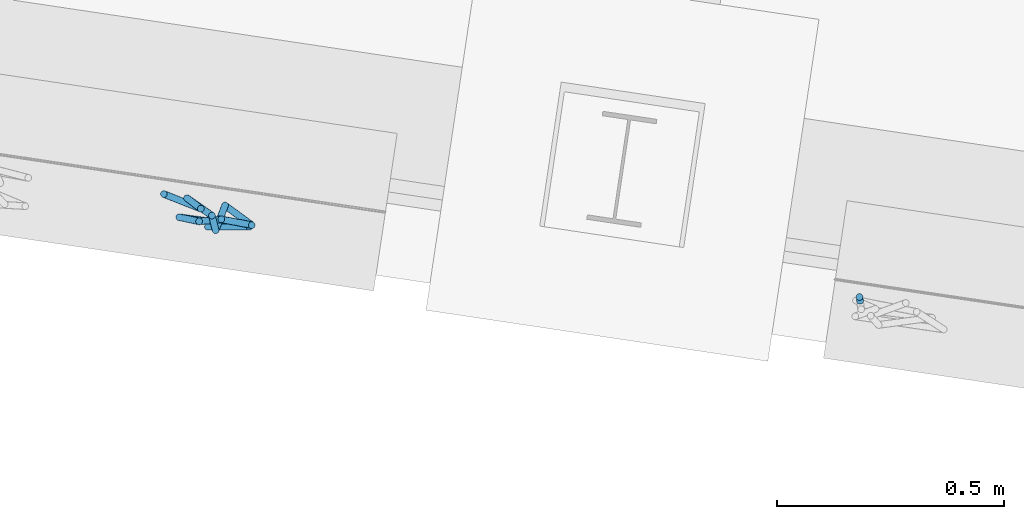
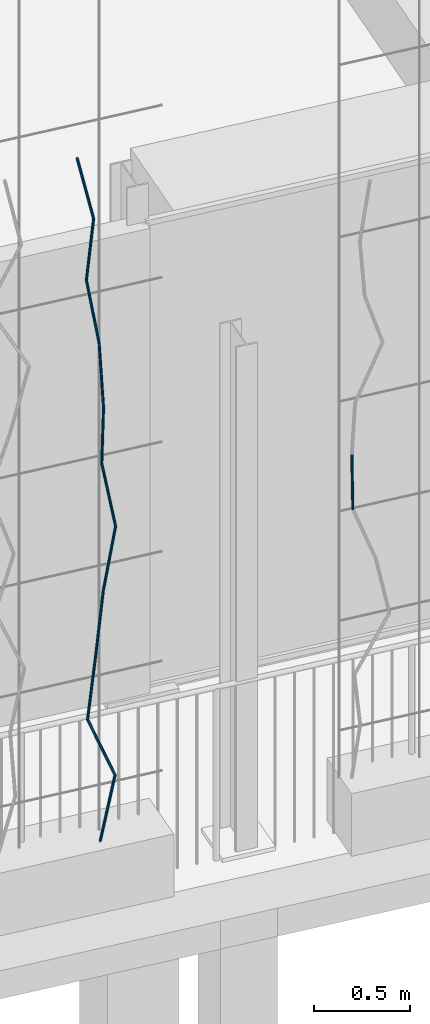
# One storey, part 120 of 143: 12 members, 1 element without a shape of its own.
"""IFC4 building model written with IfcOpenShell, lengths in metres."""

from ifc_helpers import new_model, si_unit, direction, frame, origin_with_axes, place, context, subcontext, project, spatial, circle, extrude, material, material_profile, profile_set, profile_usage, type_object, element, aggregate, save


model = new_model("IFC4")

# Units and contexts
model_context = context("Model", 3, precision=1e-05, world=origin_with_axes(), true_north=direction((0.0, 1.0)))
body_context = subcontext(model_context, "Body", "Model", "MODEL_VIEW")
ifc_project = project(units=[si_unit("VOLUMEUNIT", "CUBIC_METRE"), si_unit("LENGTHUNIT", "METRE"), si_unit("AREAUNIT", "SQUARE_METRE")], contexts=[model_context])

# Site, building, storey
site_placement = place(None, origin_with_axes())
site = spatial("IfcSite", under=ifc_project, at=site_placement, Name="Lares · Rua das Mercês · artigo 4771")
building_placement = place(site_placement, frame((15.0, 9.7, 15.8), z_axis=(0.0, 0.0, 1.0), x_axis=(0.989015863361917, -0.147809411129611, 0.0)))
building = spatial("IfcBuilding", under=site, at=building_placement, Name="Casa Sobreposta")
storey_placement = place(building_placement, origin_with_axes())
storey = spatial("IfcBuildingStorey", under=building, at=storey_placement, Name="00 · Habitação e estacionamento", Elevation=15.8)

# Assembly, members
assembly_placement = place(storey_placement, origin_with_axes())
assembly = element("IfcElementAssembly", 1, at=assembly_placement, inside=storey, Name="Fachada sul e pátio · estrutura e trepadeiras", ObjectType="LIVING_SHADE_TRELLIS", PredefinedType="USERDEFINED")
ifc_material = material(Name="Ramos de trepadeiras", Category="wood")
ifc_material_profile = material_profile(ifc_material, circle(Radius=0.0075))
ifc_profile_set = profile_set([ifc_material_profile], Name="D0.015")
ifc_profile_usage_1 = profile_usage(ifc_profile_set)
member_type = type_object("IfcMemberType", Name="D0.015 / vine_wood", PredefinedType="NOTDEFINED", material=ifc_profile_set)
member_1_placement = place(assembly_placement, frame((3.11885066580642, -1.69940547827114, 0.35), z_axis=(0.221094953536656, 0.0328171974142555, 0.974699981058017), x_axis=(0.146821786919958, -0.989162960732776, 0.0)))
member_1 = element("IfcMember", 2, at=member_1_placement, type_object=member_type, material=ifc_profile_usage_1, Name="Trepadeiras · ramo", context=body_context, shape_type="SweptSolid", body=[
    extrude(circle(Radius=0.0075), origin_with_axes(), (0.0, 0.0, 1.0), 0.406595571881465),
])
ifc_profile_usage_2 = profile_usage(ifc_profile_set)
member_2_placement = place(assembly_placement, frame((3.20874689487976, -1.68606215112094, 0.746308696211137), z_axis=(-0.364780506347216, -0.00430387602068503, 0.931083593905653), x_axis=(-0.0117977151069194, 0.999930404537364, 0.0)))
member_2 = element("IfcMember", 3, at=member_2_placement, type_object=member_type, material=ifc_profile_usage_2, Name="Trepadeiras · ramo", context=body_context, shape_type="SweptSolid", body=[
    extrude(circle(Radius=0.0075), origin_with_axes(), (0.0, 0.0, 1.0), 0.425642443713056),
])
ifc_profile_usage_3 = profile_usage(ifc_profile_set)
member_3_placement = place(assembly_placement, frame((3.05348082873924, -1.68789406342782, 1.14261739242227), z_axis=(0.111382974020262, -0.0066718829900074, 0.993755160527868), x_axis=(-0.0597932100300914, -0.998210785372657, 0.0)))
member_3 = element("IfcMember", 4, at=member_3_placement, type_object=member_type, material=ifc_profile_usage_3, Name="Trepadeiras · ramo", context=body_context, shape_type="SweptSolid", body=[
    extrude(circle(Radius=0.0075), origin_with_axes(), (0.0, 0.0, 1.0), 0.398799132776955),
])
ifc_profile_usage_4 = profile_usage(ifc_profile_set)
member_4_placement = place(assembly_placement, frame((3.09790026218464, -1.69055480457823, 1.53892608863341), z_axis=(0.119326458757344, 0.0294826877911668, 0.992417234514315), x_axis=(0.239862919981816, -0.970806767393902, 0.0)))
member_4 = element("IfcMember", 5, at=member_4_placement, type_object=member_type, material=ifc_profile_usage_4, Name="Trepadeiras · ramo", context=body_context, shape_type="SweptSolid", body=[
    extrude(circle(Radius=0.0075), origin_with_axes(), (0.0, 0.0, 1.0), 0.39933677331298),
])
ifc_profile_usage_5 = profile_usage(ifc_profile_set)
member_5_placement = place(assembly_placement, frame((3.14555170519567, -1.67878128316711, 1.93523478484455), z_axis=(0.169501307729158, -0.00686405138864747, 0.98550605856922), x_axis=(-0.0404624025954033, -0.9991810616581, 0.0)))
member_5 = element("IfcMember", 6, at=member_5_placement, type_object=member_type, material=ifc_profile_usage_5, Name="Trepadeiras · ramo", context=body_context, shape_type="SweptSolid", body=[
    extrude(circle(Radius=0.0075), origin_with_axes(), (0.0, 0.0, 1.0), 0.40213724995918),
])
ifc_profile_usage_6 = profile_usage(ifc_profile_set)
member_6_placement = place(assembly_placement, frame((3.21371449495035, -1.68154157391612, 2.33154348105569), z_axis=(-0.160243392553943, 0.0841787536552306, 0.983481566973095), x_axis=(0.46505464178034, 0.885281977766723, 0.0)))
member_6 = element("IfcMember", 7, at=member_6_placement, type_object=member_type, material=ifc_profile_usage_6, Name="Trepadeiras · ramo", context=body_context, shape_type="SweptSolid", body=[
    extrude(circle(Radius=0.0075), origin_with_axes(), (0.0, 0.0, 1.0), 0.402965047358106),
])
ifc_profile_usage_7 = profile_usage(ifc_profile_set)
member_7_placement = place(assembly_placement, frame((3.14914200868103, -1.64762047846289, 2.72785217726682), z_axis=(-0.0310480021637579, -0.142038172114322, 0.989374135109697), x_axis=(-0.976932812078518, 0.213546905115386, 5.90228850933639e-18)))
member_7 = element("IfcMember", 8, at=member_7_placement, type_object=member_type, material=ifc_profile_usage_7, Name="Trepadeiras · ramo", context=body_context, shape_type="SweptSolid", body=[
    extrude(circle(Radius=0.0075), origin_with_axes(), (0.0, 0.0, 1.0), 0.400565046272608),
])
ifc_profile_usage_8 = profile_usage(ifc_profile_set)
member_8_placement = place(assembly_placement, frame((3.13670526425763, -1.70451600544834, 3.12416087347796), z_axis=(-0.0320025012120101, 0.0772922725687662, 0.996494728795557), x_axis=(0.92393449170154, 0.382550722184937, 0.0)))
member_8 = element("IfcMember", 9, at=member_8_placement, type_object=member_type, material=ifc_profile_usage_8, Name="Trepadeiras · ramo", context=body_context, shape_type="SweptSolid", body=[
    extrude(circle(Radius=0.0075), origin_with_axes(), (0.0, 0.0, 1.0), 0.397702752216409),
])
ifc_profile_usage_9 = profile_usage(ifc_profile_set)
member_9_placement = place(assembly_placement, frame((3.12397778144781, -1.67377665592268, 3.5204695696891), z_axis=(-0.148642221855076, 0.0741828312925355, 0.986104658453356), x_axis=(0.446547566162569, 0.894759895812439, 0.0)))
member_9 = element("IfcMember", 10, at=member_9_placement, type_object=member_type, material=ifc_profile_usage_9, Name="Trepadeiras · ramo", context=body_context, shape_type="SweptSolid", body=[
    extrude(circle(Radius=0.0075), origin_with_axes(), (0.0, 0.0, 1.0), 0.401893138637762),
])
ifc_profile_usage_10 = profile_usage(ifc_profile_set)
member_10_placement = place(assembly_placement, frame((3.06423949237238, -1.64396308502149, 3.91677826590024), z_axis=(0.0840190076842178, -0.0460473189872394, 0.995399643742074), x_axis=(-0.480610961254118, -0.876933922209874, 0.0)))
member_10 = element("IfcMember", 11, at=member_10_placement, type_object=member_type, material=ifc_profile_usage_10, Name="Trepadeiras · ramo", context=body_context, shape_type="SweptSolid", body=[
    extrude(circle(Radius=0.0075), origin_with_axes(), (0.0, 0.0, 1.0), 0.398140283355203),
])
ifc_profile_usage_11 = profile_usage(ifc_profile_set)
member_11_placement = place(assembly_placement, frame((3.097690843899, -1.66229637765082, 4.31308696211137), z_axis=(-0.209774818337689, 0.0484325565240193, 0.976549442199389), x_axis=(0.224960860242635, 0.974367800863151, 0.0)))
member_11 = element("IfcMember", 12, at=member_11_placement, type_object=member_type, material=ifc_profile_usage_11, Name="Trepadeiras · ramo", context=body_context, shape_type="SweptSolid", body=[
    extrude(circle(Radius=0.0075), origin_with_axes(), (0.0, 0.0, 1.0), 0.405825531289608),
])
ifc_profile_usage_12 = profile_usage(ifc_profile_set)
member_12_placement = place(assembly_placement, frame((4.56069122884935, -1.64835584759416, 2.07350700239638), z_axis=(-0.00681256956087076, 0.0235166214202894, 0.999700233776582), x_axis=(0.999976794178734, 0.000160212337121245, 0.00681068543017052)))
member_12 = element("IfcMember", 13, at=member_12_placement, type_object=member_type, material=ifc_profile_usage_12, Name="Trepadeiras · ramo", context=body_context, shape_type="SweptSolid", body=[
    extrude(circle(Radius=0.0075), origin_with_axes(), (0.0, 0.0, 1.0), 0.344804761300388),
])
aggregate(assembly, [member_1, member_2, member_3, member_4, member_5, member_6, member_7, member_8, member_9, member_10, member_11, member_12])

save(model, "model.ifc")
